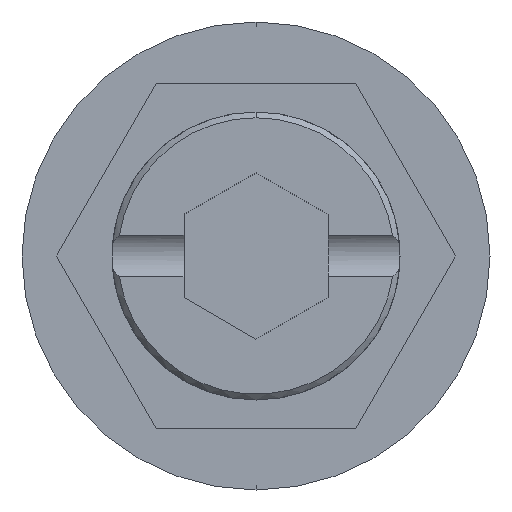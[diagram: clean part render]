
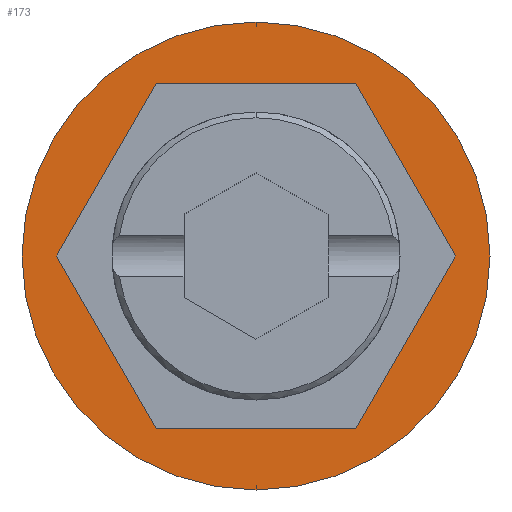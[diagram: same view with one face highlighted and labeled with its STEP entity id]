
A CAD part, front view. The second image highlights one B-rep face of the part: STEP entity #173.
In plain terms, the highlighted planar face has unit normal (0, -1, 0).
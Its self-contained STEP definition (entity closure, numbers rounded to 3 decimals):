
#59 = VECTOR ( 'NONE', #1613, 1000. ) ;
#70 = VERTEX_POINT ( 'NONE', #135 ) ;
#104 = CARTESIAN_POINT ( 'NONE',  ( 6.928, 0., 0. ) ) ;
#135 = CARTESIAN_POINT ( 'NONE',  ( -3.464, 0., 6. ) ) ;
#136 = CARTESIAN_POINT ( 'NONE',  ( 0., 0., 0. ) ) ;
#149 = DIRECTION ( 'NONE',  ( 0., -1., 0. ) ) ;
#157 = DIRECTION ( 'NONE',  ( 0., -1., 0. ) ) ;
#163 = EDGE_CURVE ( 'NONE', #825, #1105, #1420, .T. ) ;
#173 = ADVANCED_FACE ( 'NONE', ( #568, #1867 ), #1794, .T. ) ;
#174 = AXIS2_PLACEMENT_3D ( 'NONE', #136, #157, #540 ) ;
#177 = EDGE_LOOP ( 'NONE', ( #1279, #377, #2129, #345, #740, #1624 ) ) ;
#198 = VERTEX_POINT ( 'NONE', #401 ) ;
#230 = AXIS2_PLACEMENT_3D ( 'NONE', #970, #450, #449 ) ;
#244 = VERTEX_POINT ( 'NONE', #1130 ) ;
#290 = CIRCLE ( 'NONE', #230, 8.125 ) ;
#295 = LINE ( 'NONE', #463, #783 ) ;
#319 = ORIENTED_EDGE ( 'NONE', *, *, #1554, .T. ) ;
#345 = ORIENTED_EDGE ( 'NONE', *, *, #1348, .F. ) ;
#377 = ORIENTED_EDGE ( 'NONE', *, *, #163, .F. ) ;
#401 = CARTESIAN_POINT ( 'NONE',  ( 6.928, 0., 0. ) ) ;
#423 = CARTESIAN_POINT ( 'NONE',  ( 0., 0., -8.125 ) ) ;
#449 = DIRECTION ( 'NONE',  ( 0., 0., -1. ) ) ;
#450 = DIRECTION ( 'NONE',  ( 0., -1., 0. ) ) ;
#463 = CARTESIAN_POINT ( 'NONE',  ( -3.464, 0., -6. ) ) ;
#478 = EDGE_LOOP ( 'NONE', ( #319, #2012 ) ) ;
#540 = DIRECTION ( 'NONE',  ( 0., 0., -1. ) ) ;
#564 = DIRECTION ( 'NONE',  ( 0., 0., -1. ) ) ;
#568 = FACE_BOUND ( 'NONE', #177, .T. ) ;
#584 = CARTESIAN_POINT ( 'NONE',  ( 0., 0., 0. ) ) ;
#704 = EDGE_CURVE ( 'NONE', #70, #825, #1522, .T. ) ;
#740 = ORIENTED_EDGE ( 'NONE', *, *, #1449, .F. ) ;
#750 = VECTOR ( 'NONE', #1525, 1000. ) ;
#751 = DIRECTION ( 'NONE',  ( 1., 0., 0. ) ) ;
#758 = VERTEX_POINT ( 'NONE', #423 ) ;
#783 = VECTOR ( 'NONE', #751, 1000. ) ;
#825 = VERTEX_POINT ( 'NONE', #943 ) ;
#881 = LINE ( 'NONE', #104, #59 ) ;
#888 = CARTESIAN_POINT ( 'NONE',  ( 0., 0., 8.125 ) ) ;
#943 = CARTESIAN_POINT ( 'NONE',  ( -6.928, 0., 0. ) ) ;
#970 = CARTESIAN_POINT ( 'NONE',  ( 0., 0., 0. ) ) ;
#994 = VERTEX_POINT ( 'NONE', #1457 ) ;
#1105 = VERTEX_POINT ( 'NONE', #1126 ) ;
#1121 = DIRECTION ( 'NONE',  ( -0.5, 0., -0.866 ) ) ;
#1126 = CARTESIAN_POINT ( 'NONE',  ( -3.464, 0., -6. ) ) ;
#1130 = CARTESIAN_POINT ( 'NONE',  ( 3.464, 0., 6. ) ) ;
#1200 = CIRCLE ( 'NONE', #174, 8.125 ) ;
#1263 = AXIS2_PLACEMENT_3D ( 'NONE', #584, #149, #564 ) ;
#1271 = VERTEX_POINT ( 'NONE', #888 ) ;
#1279 = ORIENTED_EDGE ( 'NONE', *, *, #2139, .F. ) ;
#1348 = EDGE_CURVE ( 'NONE', #244, #70, #1908, .T. ) ;
#1420 = LINE ( 'NONE', #1573, #750 ) ;
#1449 = EDGE_CURVE ( 'NONE', #198, #244, #881, .T. ) ;
#1457 = CARTESIAN_POINT ( 'NONE',  ( 3.464, 0., -6. ) ) ;
#1474 = VECTOR ( 'NONE', #1999, 1000. ) ;
#1522 = LINE ( 'NONE', #1884, #2008 ) ;
#1525 = DIRECTION ( 'NONE',  ( 0.5, 0., -0.866 ) ) ;
#1554 = EDGE_CURVE ( 'NONE', #758, #1271, #290, .T. ) ;
#1557 = EDGE_CURVE ( 'NONE', #994, #198, #2031, .T. ) ;
#1573 = CARTESIAN_POINT ( 'NONE',  ( -6.928, 0., 0. ) ) ;
#1593 = CARTESIAN_POINT ( 'NONE',  ( 3.464, 0., 6. ) ) ;
#1613 = DIRECTION ( 'NONE',  ( -0.5, 0., 0.866 ) ) ;
#1624 = ORIENTED_EDGE ( 'NONE', *, *, #1557, .F. ) ;
#1666 = DIRECTION ( 'NONE',  ( 0.5, 0., 0.866 ) ) ;
#1673 = EDGE_CURVE ( 'NONE', #1271, #758, #1200, .T. ) ;
#1794 = PLANE ( 'NONE',  #1263 ) ;
#1867 = FACE_OUTER_BOUND ( 'NONE', #478, .T. ) ;
#1884 = CARTESIAN_POINT ( 'NONE',  ( -3.464, 0., 6. ) ) ;
#1908 = LINE ( 'NONE', #1593, #1474 ) ;
#1956 = CARTESIAN_POINT ( 'NONE',  ( 3.464, 0., -6. ) ) ;
#1983 = VECTOR ( 'NONE', #1666, 1000. ) ;
#1999 = DIRECTION ( 'NONE',  ( -1., 0., 0. ) ) ;
#2008 = VECTOR ( 'NONE', #1121, 1000. ) ;
#2012 = ORIENTED_EDGE ( 'NONE', *, *, #1673, .T. ) ;
#2031 = LINE ( 'NONE', #1956, #1983 ) ;
#2129 = ORIENTED_EDGE ( 'NONE', *, *, #704, .F. ) ;
#2139 = EDGE_CURVE ( 'NONE', #1105, #994, #295, .T. ) ;
